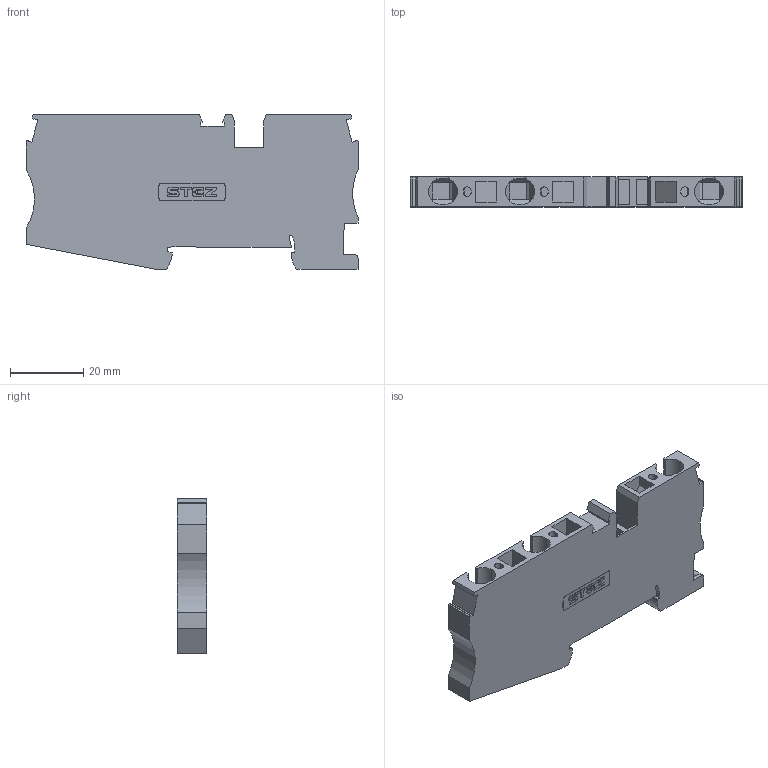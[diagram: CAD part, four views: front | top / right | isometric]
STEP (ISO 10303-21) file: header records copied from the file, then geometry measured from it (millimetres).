
FILE_DESCRIPTION(('TFLEX Exchange Step'),'2;1');
FILE_NAME('10000100_КНЗ_6-3.stp', '2024-06-14T10:39:51+03:00',('apanin'),('Unknown organisation'),'TFLEX Exchange 2023.2','T-FLEX CAD','Unknown authorisation');
FILE_SCHEMA( ('AUTOMOTIVE_DESIGN { 1 0 10303 214 1 1 1 1 }') );
Length unit declared in the file: millimetre
Products named in the file (1): Тело_1 - Тело_1:1
Bounding box: 90.5 x 8.15 x 42.2 mm (x, y, z)
Volume: 23560.4 mm3; surface area: 11570.2 mm2
Topology: 1 solids, 1 shells, 399 faces, 1156 edges, 772 vertices
Faces by surface type: plane 206, cylinder 191, bspline 2
Entity records: 13377 total; most frequent: CARTESIAN_POINT 2544, ORIENTED_EDGE 2312, DIRECTION 2281, EDGE_CURVE 1156, VERTEX_POINT 772, AXIS2_PLACEMENT_3D 769, VECTOR 743, LINE 743
